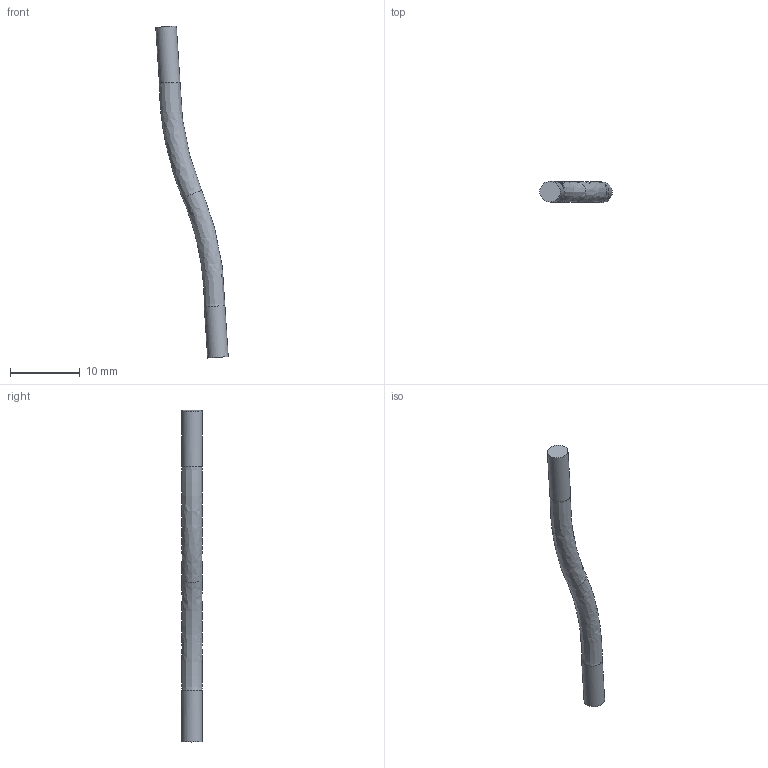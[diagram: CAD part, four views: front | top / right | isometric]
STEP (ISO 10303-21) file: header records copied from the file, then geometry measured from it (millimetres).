
FILE_DESCRIPTION(/* description */ ('Unknown'),/* implementation_level */ '2;1');
FILE_NAME(/* name */ 'Black_4640742_AVV',/* time_stamp */ '2025-07-21T23:48:40+02:00',/* author */ ('Unknown'),/* organization */ ('Unknown'),/* preprocessor_version */ 'ST-DEVELOPER v19.4',/* originating_system */ 'Solid Edge',/* authorisation */ 'Unknown');
FILE_SCHEMA (('AUTOMOTIVE_DESIGN {1 0 10303 214 3 1 1}'));
Length unit declared in the file: millimetre
Products named in the file (1): Black_4640742_AVV
Bounding box: 10.39 x 2.96 x 47.56 mm (x, y, z)
Volume: 332 mm3; surface area: 462.4 mm2
Topology: 1 solids, 1 shells, 6 faces, 13 edges, 9 vertices
Faces by surface type: cylinder 2, bspline 2, plane 2
Full cylindrical faces by diameter (mm): 2.96 x2
Entity records: 418 total; most frequent: CARTESIAN_POINT 295, DIRECTION 16, ORIENTED_EDGE 14, EDGE_LOOP 10, FACE_BOUND 10, AXIS2_PLACEMENT_3D 8, EDGE_CURVE 7, VERTEX_POINT 7
